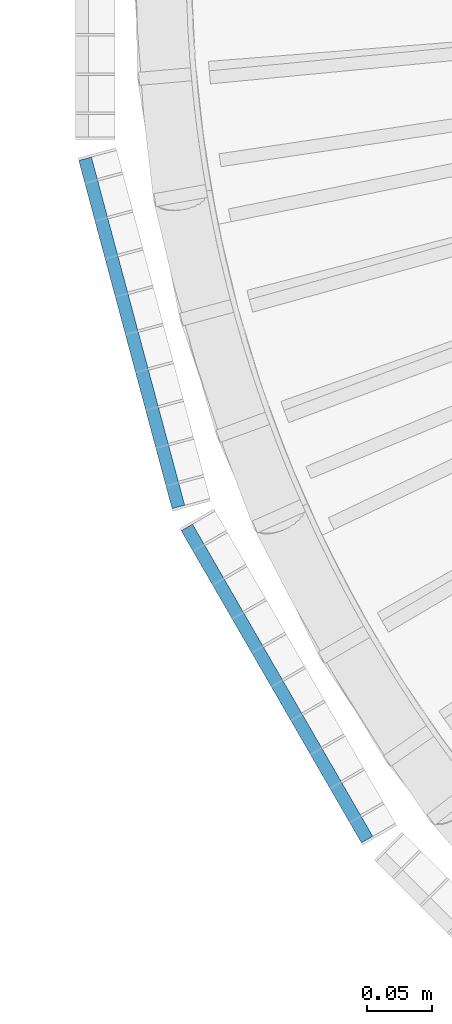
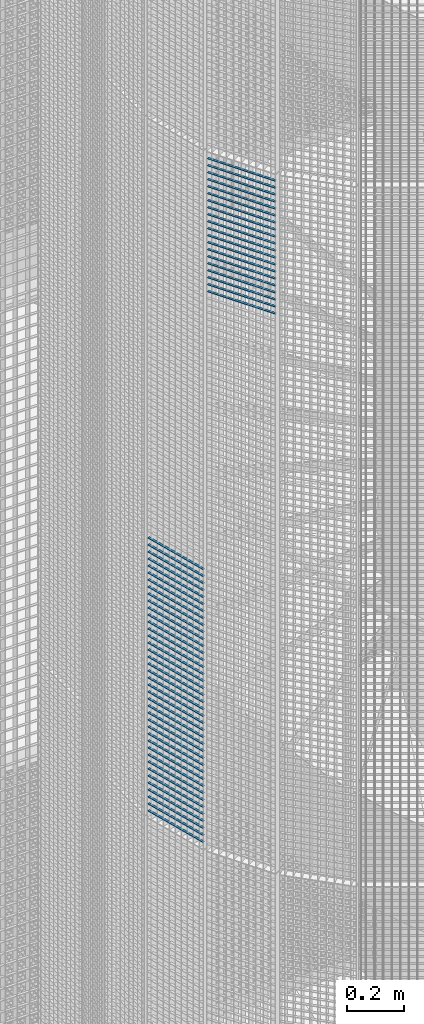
# One storey, part 333 of 1148: 60 beams, 2 elements without a shape of their own.
"""IFC2X3 building model written with IfcOpenShell, lengths in millimetres."""

from ifc_helpers import new_model, si_unit, frame, origin_with_axes, origin_2d_with_axis, place, context, subcontext, project, spatial, rectangle, extrude, material, type_object, element, aggregate, save


model = new_model("IFC2X3")

# Units and contexts
model_context = context("Model", 3, precision=1e-05, world=origin_with_axes())
body_context = subcontext(model_context, "Body", "Model", "MODEL_VIEW")
ifc_project = project(units=[si_unit("LENGTHUNIT", "METRE", prefix="MILLI"), si_unit("AREAUNIT", "SQUARE_METRE"), si_unit("VOLUMEUNIT", "CUBIC_METRE"), si_unit("MASSUNIT", "GRAM", prefix="KILO"), si_unit("TIMEUNIT", "SECOND"), si_unit("PLANEANGLEUNIT", "RADIAN"), si_unit("SOLIDANGLEUNIT", "STERADIAN"), si_unit("THERMODYNAMICTEMPERATUREUNIT", "DEGREE_CELSIUS"), si_unit("LUMINOUSINTENSITYUNIT", "LUMEN")], contexts=[model_context])

# Site, building, storey
site_placement = place(None, origin_with_axes())
site = spatial("IfcSite", under=ifc_project, at=site_placement, Name="Undefined", CompositionType="ELEMENT")
building_placement = place(site_placement, origin_with_axes())
building = spatial("IfcBuilding", under=site, at=building_placement, Name="Undefined", CompositionType="ELEMENT")
storey_placement = place(building_placement, origin_with_axes())
storey = spatial("IfcBuildingStorey", under=building, at=storey_placement, Name="Undefined", CompositionType="ELEMENT", Elevation=0.0)

# Assembly, beams
assembly_1_placement = place(storey_placement, origin_with_axes())
assembly_1 = element("IfcElementAssembly", 1, at=assembly_1_placement, inside=storey, Name="BORDURE", AssemblyPlace="NOTDEFINED", PredefinedType="NOTDEFINED")
ifc_material = material(Name="STEEL/S235JR")
beam_type = type_object("IfcBeamType", Name="PL2*10", PredefinedType="NOTDEFINED")
beam_1_placement = place(assembly_1_placement, frame((20560.1769047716, -421.483733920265, 13200.0), z_axis=(-0.965925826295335, -0.258819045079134, 0.0), x_axis=(-0.258819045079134, 0.965925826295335, 0.0)))
beam_1 = element("IfcBeam", 2, at=beam_1_placement, type_object=beam_type, material=ifc_material, Name="ENTRETOISE", context=body_context, shape_type="SweptSolid", body=[
    extrude(rectangle(XDim=2.0, YDim=10.0, at=origin_2d_with_axis()), frame((275.999999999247, 9.09494701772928e-13, 1.53210777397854e-14), z_axis=(-1.0, 0.0, 0.0), x_axis=(0.0, -1.0, 0.0)), (0.0, 0.0, 1.0), 276.0),
])
beam_2_placement = place(assembly_1_placement, frame((20560.1769047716, -421.483733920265, 13170.0), z_axis=(-0.965925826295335, -0.258819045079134, 0.0), x_axis=(-0.258819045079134, 0.965925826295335, 0.0)))
beam_2 = element("IfcBeam", 3, at=beam_2_placement, type_object=beam_type, material=ifc_material, Name="ENTRETOISE", context=body_context, shape_type="SweptSolid", body=[
    extrude(rectangle(XDim=2.0, YDim=10.0, at=origin_2d_with_axis()), frame((275.999999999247, 9.09494701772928e-13, 1.53210777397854e-14), z_axis=(-1.0, 0.0, 0.0), x_axis=(0.0, -1.0, 0.0)), (0.0, 0.0, 1.0), 276.0),
])
beam_3_placement = place(assembly_1_placement, frame((20560.1769047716, -421.483733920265, 13140.0), z_axis=(-0.965925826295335, -0.258819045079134, 0.0), x_axis=(-0.258819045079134, 0.965925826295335, 0.0)))
beam_3 = element("IfcBeam", 4, at=beam_3_placement, type_object=beam_type, material=ifc_material, Name="ENTRETOISE", context=body_context, shape_type="SweptSolid", body=[
    extrude(rectangle(XDim=2.0, YDim=10.0, at=origin_2d_with_axis()), frame((275.999999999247, 9.09494701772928e-13, 1.53210777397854e-14), z_axis=(-1.0, 0.0, 0.0), x_axis=(0.0, -1.0, 0.0)), (0.0, 0.0, 1.0), 276.0),
])
beam_4_placement = place(assembly_1_placement, frame((20560.1769047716, -421.483733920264, 12720.0), z_axis=(-0.965925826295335, -0.258819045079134, 0.0), x_axis=(-0.258819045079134, 0.965925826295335, 0.0)))
beam_4 = element("IfcBeam", 5, at=beam_4_placement, type_object=beam_type, material=ifc_material, Name="ENTRETOISE", context=body_context, shape_type="SweptSolid", body=[
    extrude(rectangle(XDim=2.0, YDim=10.0, at=origin_2d_with_axis()), frame((275.999999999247, 9.09494701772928e-13, 1.53210777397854e-14), z_axis=(-1.0, 0.0, 0.0), x_axis=(0.0, -1.0, 0.0)), (0.0, 0.0, 1.0), 276.0),
])
beam_5_placement = place(assembly_1_placement, frame((20560.1769047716, -421.483733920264, 12690.0), z_axis=(-0.965925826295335, -0.258819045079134, 0.0), x_axis=(-0.258819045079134, 0.965925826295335, 0.0)))
beam_5 = element("IfcBeam", 6, at=beam_5_placement, type_object=beam_type, material=ifc_material, Name="ENTRETOISE", context=body_context, shape_type="SweptSolid", body=[
    extrude(rectangle(XDim=2.0, YDim=10.0, at=origin_2d_with_axis()), frame((275.999999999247, 9.09494701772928e-13, 1.53210777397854e-14), z_axis=(-1.0, 0.0, 0.0), x_axis=(0.0, -1.0, 0.0)), (0.0, 0.0, 1.0), 276.0),
])
beam_6_placement = place(assembly_1_placement, frame((20560.1769047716, -421.483733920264, 12750.0), z_axis=(-0.965925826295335, -0.258819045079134, 0.0), x_axis=(-0.258819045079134, 0.965925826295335, 0.0)))
beam_6 = element("IfcBeam", 7, at=beam_6_placement, type_object=beam_type, material=ifc_material, Name="ENTRETOISE", context=body_context, shape_type="SweptSolid", body=[
    extrude(rectangle(XDim=2.0, YDim=10.0, at=origin_2d_with_axis()), frame((275.999999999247, 9.09494701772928e-13, 1.53210777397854e-14), z_axis=(-1.0, 0.0, 0.0), x_axis=(0.0, -1.0, 0.0)), (0.0, 0.0, 1.0), 276.0),
])
beam_7_placement = place(assembly_1_placement, frame((20560.1769047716, -421.483733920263, 12660.0), z_axis=(-0.965925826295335, -0.258819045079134, 0.0), x_axis=(-0.258819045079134, 0.965925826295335, 0.0)))
beam_7 = element("IfcBeam", 8, at=beam_7_placement, type_object=beam_type, material=ifc_material, Name="ENTRETOISE", context=body_context, shape_type="SweptSolid", body=[
    extrude(rectangle(XDim=2.0, YDim=10.0, at=origin_2d_with_axis()), frame((275.999999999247, 9.09494701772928e-13, 1.53210777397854e-14), z_axis=(-1.0, 0.0, 0.0), x_axis=(0.0, -1.0, 0.0)), (0.0, 0.0, 1.0), 276.0),
])
beam_8_placement = place(assembly_1_placement, frame((20560.1769047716, -421.483733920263, 12630.0), z_axis=(-0.965925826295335, -0.258819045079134, 0.0), x_axis=(-0.258819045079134, 0.965925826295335, 0.0)))
beam_8 = element("IfcBeam", 9, at=beam_8_placement, type_object=beam_type, material=ifc_material, Name="ENTRETOISE", context=body_context, shape_type="SweptSolid", body=[
    extrude(rectangle(XDim=2.0, YDim=10.0, at=origin_2d_with_axis()), frame((275.999999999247, 9.09494701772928e-13, 1.53210777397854e-14), z_axis=(-1.0, 0.0, 0.0), x_axis=(0.0, -1.0, 0.0)), (0.0, 0.0, 1.0), 276.0),
])
beam_9_placement = place(assembly_1_placement, frame((20560.1769047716, -421.483733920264, 12780.0), z_axis=(-0.965925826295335, -0.258819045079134, 0.0), x_axis=(-0.258819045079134, 0.965925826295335, 0.0)))
beam_9 = element("IfcBeam", 10, at=beam_9_placement, type_object=beam_type, material=ifc_material, Name="ENTRETOISE", context=body_context, shape_type="SweptSolid", body=[
    extrude(rectangle(XDim=2.0, YDim=10.0, at=origin_2d_with_axis()), frame((275.999999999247, 9.09494701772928e-13, 1.53210777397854e-14), z_axis=(-1.0, 0.0, 0.0), x_axis=(0.0, -1.0, 0.0)), (0.0, 0.0, 1.0), 276.0),
])
beam_10_placement = place(assembly_1_placement, frame((20560.1769047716, -421.483733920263, 12600.0), z_axis=(-0.965925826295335, -0.258819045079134, 0.0), x_axis=(-0.258819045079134, 0.965925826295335, 0.0)))
beam_10 = element("IfcBeam", 11, at=beam_10_placement, type_object=beam_type, material=ifc_material, Name="ENTRETOISE", context=body_context, shape_type="SweptSolid", body=[
    extrude(rectangle(XDim=2.0, YDim=10.0, at=origin_2d_with_axis()), frame((275.999999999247, 9.09494701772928e-13, 1.53210777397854e-14), z_axis=(-1.0, 0.0, 0.0), x_axis=(0.0, -1.0, 0.0)), (0.0, 0.0, 1.0), 276.0),
])
beam_11_placement = place(assembly_1_placement, frame((20560.1769047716, -421.483733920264, 12810.0), z_axis=(-0.965925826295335, -0.258819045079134, 0.0), x_axis=(-0.258819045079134, 0.965925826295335, 0.0)))
beam_11 = element("IfcBeam", 12, at=beam_11_placement, type_object=beam_type, material=ifc_material, Name="ENTRETOISE", context=body_context, shape_type="SweptSolid", body=[
    extrude(rectangle(XDim=2.0, YDim=10.0, at=origin_2d_with_axis()), frame((275.999999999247, 9.09494701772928e-13, 1.53210777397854e-14), z_axis=(-1.0, 0.0, 0.0), x_axis=(0.0, -1.0, 0.0)), (0.0, 0.0, 1.0), 276.0),
])
beam_12_placement = place(assembly_1_placement, frame((20560.1769047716, -421.483733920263, 12570.0), z_axis=(-0.965925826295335, -0.258819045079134, 0.0), x_axis=(-0.258819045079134, 0.965925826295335, 0.0)))
beam_12 = element("IfcBeam", 13, at=beam_12_placement, type_object=beam_type, material=ifc_material, Name="ENTRETOISE", context=body_context, shape_type="SweptSolid", body=[
    extrude(rectangle(XDim=2.0, YDim=10.0, at=origin_2d_with_axis()), frame((275.999999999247, 9.09494701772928e-13, 1.53210777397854e-14), z_axis=(-1.0, 0.0, 0.0), x_axis=(0.0, -1.0, 0.0)), (0.0, 0.0, 1.0), 276.0),
])
beam_13_placement = place(assembly_1_placement, frame((20560.1769047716, -421.483733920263, 12540.0), z_axis=(-0.965925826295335, -0.258819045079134, 0.0), x_axis=(-0.258819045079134, 0.965925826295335, 0.0)))
beam_13 = element("IfcBeam", 14, at=beam_13_placement, type_object=beam_type, material=ifc_material, Name="ENTRETOISE", context=body_context, shape_type="SweptSolid", body=[
    extrude(rectangle(XDim=2.0, YDim=10.0, at=origin_2d_with_axis()), frame((275.999999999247, 9.09494701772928e-13, 1.53210777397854e-14), z_axis=(-1.0, 0.0, 0.0), x_axis=(0.0, -1.0, 0.0)), (0.0, 0.0, 1.0), 276.0),
])
beam_14_placement = place(assembly_1_placement, frame((20560.1769047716, -421.483733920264, 12840.0), z_axis=(-0.965925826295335, -0.258819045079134, 0.0), x_axis=(-0.258819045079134, 0.965925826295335, 0.0)))
beam_14 = element("IfcBeam", 15, at=beam_14_placement, type_object=beam_type, material=ifc_material, Name="ENTRETOISE", context=body_context, shape_type="SweptSolid", body=[
    extrude(rectangle(XDim=2.0, YDim=10.0, at=origin_2d_with_axis()), frame((275.999999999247, 9.09494701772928e-13, 1.53210777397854e-14), z_axis=(-1.0, 0.0, 0.0), x_axis=(0.0, -1.0, 0.0)), (0.0, 0.0, 1.0), 276.0),
])
beam_15_placement = place(assembly_1_placement, frame((20560.1769047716, -421.483733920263, 12510.0), z_axis=(-0.965925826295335, -0.258819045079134, 0.0), x_axis=(-0.258819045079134, 0.965925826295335, 0.0)))
beam_15 = element("IfcBeam", 16, at=beam_15_placement, type_object=beam_type, material=ifc_material, Name="ENTRETOISE", context=body_context, shape_type="SweptSolid", body=[
    extrude(rectangle(XDim=2.0, YDim=10.0, at=origin_2d_with_axis()), frame((275.999999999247, 9.09494701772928e-13, 1.53210777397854e-14), z_axis=(-1.0, 0.0, 0.0), x_axis=(0.0, -1.0, 0.0)), (0.0, 0.0, 1.0), 276.0),
])
beam_16_placement = place(assembly_1_placement, frame((20560.1769047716, -421.483733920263, 12480.0), z_axis=(-0.965925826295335, -0.258819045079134, 0.0), x_axis=(-0.258819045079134, 0.965925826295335, 0.0)))
beam_16 = element("IfcBeam", 17, at=beam_16_placement, type_object=beam_type, material=ifc_material, Name="ENTRETOISE", context=body_context, shape_type="SweptSolid", body=[
    extrude(rectangle(XDim=2.0, YDim=10.0, at=origin_2d_with_axis()), frame((275.999999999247, 9.09494701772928e-13, 1.53210777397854e-14), z_axis=(-1.0, 0.0, 0.0), x_axis=(0.0, -1.0, 0.0)), (0.0, 0.0, 1.0), 276.0),
])
beam_17_placement = place(assembly_1_placement, frame((20560.1769047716, -421.483733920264, 12870.0), z_axis=(-0.965925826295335, -0.258819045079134, 0.0), x_axis=(-0.258819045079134, 0.965925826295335, 0.0)))
beam_17 = element("IfcBeam", 18, at=beam_17_placement, type_object=beam_type, material=ifc_material, Name="ENTRETOISE", context=body_context, shape_type="SweptSolid", body=[
    extrude(rectangle(XDim=2.0, YDim=10.0, at=origin_2d_with_axis()), frame((275.999999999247, 9.09494701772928e-13, 1.53210777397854e-14), z_axis=(-1.0, 0.0, 0.0), x_axis=(0.0, -1.0, 0.0)), (0.0, 0.0, 1.0), 276.0),
])
beam_18_placement = place(assembly_1_placement, frame((20560.1769047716, -421.483733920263, 12450.0), z_axis=(-0.965925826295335, -0.258819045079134, 0.0), x_axis=(-0.258819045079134, 0.965925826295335, 0.0)))
beam_18 = element("IfcBeam", 19, at=beam_18_placement, type_object=beam_type, material=ifc_material, Name="ENTRETOISE", context=body_context, shape_type="SweptSolid", body=[
    extrude(rectangle(XDim=2.0, YDim=10.0, at=origin_2d_with_axis()), frame((275.999999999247, 9.09494701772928e-13, 1.53210777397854e-14), z_axis=(-1.0, 0.0, 0.0), x_axis=(0.0, -1.0, 0.0)), (0.0, 0.0, 1.0), 276.0),
])
beam_19_placement = place(assembly_1_placement, frame((20560.1769047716, -421.483733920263, 12420.0), z_axis=(-0.965925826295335, -0.258819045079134, 0.0), x_axis=(-0.258819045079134, 0.965925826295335, 0.0)))
beam_19 = element("IfcBeam", 20, at=beam_19_placement, type_object=beam_type, material=ifc_material, Name="ENTRETOISE", context=body_context, shape_type="SweptSolid", body=[
    extrude(rectangle(XDim=2.0, YDim=10.0, at=origin_2d_with_axis()), frame((275.999999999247, 9.09494701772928e-13, 1.53210777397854e-14), z_axis=(-1.0, 0.0, 0.0), x_axis=(0.0, -1.0, 0.0)), (0.0, 0.0, 1.0), 276.0),
])
beam_20_placement = place(assembly_1_placement, frame((20560.1769047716, -421.483733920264, 12900.0), z_axis=(-0.965925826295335, -0.258819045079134, 0.0), x_axis=(-0.258819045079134, 0.965925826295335, 0.0)))
beam_20 = element("IfcBeam", 21, at=beam_20_placement, type_object=beam_type, material=ifc_material, Name="ENTRETOISE", context=body_context, shape_type="SweptSolid", body=[
    extrude(rectangle(XDim=2.0, YDim=10.0, at=origin_2d_with_axis()), frame((275.999999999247, 9.09494701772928e-13, 1.53210777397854e-14), z_axis=(-1.0, 0.0, 0.0), x_axis=(0.0, -1.0, 0.0)), (0.0, 0.0, 1.0), 276.0),
])
beam_21_placement = place(assembly_1_placement, frame((20560.1769047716, -421.483733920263, 12390.0), z_axis=(-0.965925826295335, -0.258819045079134, 0.0), x_axis=(-0.258819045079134, 0.965925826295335, 0.0)))
beam_21 = element("IfcBeam", 22, at=beam_21_placement, type_object=beam_type, material=ifc_material, Name="ENTRETOISE", context=body_context, shape_type="SweptSolid", body=[
    extrude(rectangle(XDim=2.0, YDim=10.0, at=origin_2d_with_axis()), frame((275.999999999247, 9.09494701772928e-13, 1.53210777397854e-14), z_axis=(-1.0, 0.0, 0.0), x_axis=(0.0, -1.0, 0.0)), (0.0, 0.0, 1.0), 276.0),
])
beam_22_placement = place(assembly_1_placement, frame((20560.1769047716, -421.483733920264, 12930.0), z_axis=(-0.965925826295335, -0.258819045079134, 0.0), x_axis=(-0.258819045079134, 0.965925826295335, 0.0)))
beam_22 = element("IfcBeam", 23, at=beam_22_placement, type_object=beam_type, material=ifc_material, Name="ENTRETOISE", context=body_context, shape_type="SweptSolid", body=[
    extrude(rectangle(XDim=2.0, YDim=10.0, at=origin_2d_with_axis()), frame((275.999999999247, 9.09494701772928e-13, 1.53210777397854e-14), z_axis=(-1.0, 0.0, 0.0), x_axis=(0.0, -1.0, 0.0)), (0.0, 0.0, 1.0), 276.0),
])
beam_23_placement = place(assembly_1_placement, frame((20560.1769047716, -421.483733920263, 12360.0), z_axis=(-0.965925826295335, -0.258819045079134, 0.0), x_axis=(-0.258819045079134, 0.965925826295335, 0.0)))
beam_23 = element("IfcBeam", 24, at=beam_23_placement, type_object=beam_type, material=ifc_material, Name="ENTRETOISE", context=body_context, shape_type="SweptSolid", body=[
    extrude(rectangle(XDim=2.0, YDim=10.0, at=origin_2d_with_axis()), frame((275.999999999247, 9.09494701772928e-13, 1.53210777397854e-14), z_axis=(-1.0, 0.0, 0.0), x_axis=(0.0, -1.0, 0.0)), (0.0, 0.0, 1.0), 276.0),
])
beam_24_placement = place(assembly_1_placement, frame((20560.1769047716, -421.483733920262, 12330.0), z_axis=(-0.965925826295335, -0.258819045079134, 0.0), x_axis=(-0.258819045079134, 0.965925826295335, 0.0)))
beam_24 = element("IfcBeam", 25, at=beam_24_placement, type_object=beam_type, material=ifc_material, Name="ENTRETOISE", context=body_context, shape_type="SweptSolid", body=[
    extrude(rectangle(XDim=2.0, YDim=10.0, at=origin_2d_with_axis()), frame((275.999999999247, 9.09494701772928e-13, 1.53210777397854e-14), z_axis=(-1.0, 0.0, 0.0), x_axis=(0.0, -1.0, 0.0)), (0.0, 0.0, 1.0), 276.0),
])
beam_25_placement = place(assembly_1_placement, frame((20560.1769047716, -421.483733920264, 12960.0), z_axis=(-0.965925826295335, -0.258819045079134, 0.0), x_axis=(-0.258819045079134, 0.965925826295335, 0.0)))
beam_25 = element("IfcBeam", 26, at=beam_25_placement, type_object=beam_type, material=ifc_material, Name="ENTRETOISE", context=body_context, shape_type="SweptSolid", body=[
    extrude(rectangle(XDim=2.0, YDim=10.0, at=origin_2d_with_axis()), frame((275.999999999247, 9.09494701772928e-13, 1.53210777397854e-14), z_axis=(-1.0, 0.0, 0.0), x_axis=(0.0, -1.0, 0.0)), (0.0, 0.0, 1.0), 276.0),
])
beam_26_placement = place(assembly_1_placement, frame((20560.1769047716, -421.483733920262, 12300.0), z_axis=(-0.965925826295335, -0.258819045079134, 0.0), x_axis=(-0.258819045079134, 0.965925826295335, 0.0)))
beam_26 = element("IfcBeam", 27, at=beam_26_placement, type_object=beam_type, material=ifc_material, Name="ENTRETOISE", context=body_context, shape_type="SweptSolid", body=[
    extrude(rectangle(XDim=2.0, YDim=10.0, at=origin_2d_with_axis()), frame((275.999999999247, 9.09494701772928e-13, 1.53210777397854e-14), z_axis=(-1.0, 0.0, 0.0), x_axis=(0.0, -1.0, 0.0)), (0.0, 0.0, 1.0), 276.0),
])
beam_27_placement = place(assembly_1_placement, frame((20560.1769047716, -421.483733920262, 12270.0), z_axis=(-0.965925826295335, -0.258819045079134, 0.0), x_axis=(-0.258819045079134, 0.965925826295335, 0.0)))
beam_27 = element("IfcBeam", 28, at=beam_27_placement, type_object=beam_type, material=ifc_material, Name="ENTRETOISE", context=body_context, shape_type="SweptSolid", body=[
    extrude(rectangle(XDim=2.0, YDim=10.0, at=origin_2d_with_axis()), frame((275.999999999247, 9.09494701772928e-13, 1.53210777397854e-14), z_axis=(-1.0, 0.0, 0.0), x_axis=(0.0, -1.0, 0.0)), (0.0, 0.0, 1.0), 276.0),
])
beam_28_placement = place(assembly_1_placement, frame((20560.1769047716, -421.483733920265, 12990.0), z_axis=(-0.965925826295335, -0.258819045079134, 0.0), x_axis=(-0.258819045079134, 0.965925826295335, 0.0)))
beam_28 = element("IfcBeam", 29, at=beam_28_placement, type_object=beam_type, material=ifc_material, Name="ENTRETOISE", context=body_context, shape_type="SweptSolid", body=[
    extrude(rectangle(XDim=2.0, YDim=10.0, at=origin_2d_with_axis()), frame((275.999999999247, 9.09494701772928e-13, 1.53210777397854e-14), z_axis=(-1.0, 0.0, 0.0), x_axis=(0.0, -1.0, 0.0)), (0.0, 0.0, 1.0), 276.0),
])
beam_29_placement = place(assembly_1_placement, frame((20560.1769047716, -421.483733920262, 12240.0), z_axis=(-0.965925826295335, -0.258819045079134, 0.0), x_axis=(-0.258819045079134, 0.965925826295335, 0.0)))
beam_29 = element("IfcBeam", 30, at=beam_29_placement, type_object=beam_type, material=ifc_material, Name="ENTRETOISE", context=body_context, shape_type="SweptSolid", body=[
    extrude(rectangle(XDim=2.0, YDim=10.0, at=origin_2d_with_axis()), frame((275.999999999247, 9.09494701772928e-13, 1.53210777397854e-14), z_axis=(-1.0, 0.0, 0.0), x_axis=(0.0, -1.0, 0.0)), (0.0, 0.0, 1.0), 276.0),
])
beam_30_placement = place(assembly_1_placement, frame((20560.1769047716, -421.483733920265, 13020.0), z_axis=(-0.965925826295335, -0.258819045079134, 0.0), x_axis=(-0.258819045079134, 0.965925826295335, 0.0)))
beam_30 = element("IfcBeam", 31, at=beam_30_placement, type_object=beam_type, material=ifc_material, Name="ENTRETOISE", context=body_context, shape_type="SweptSolid", body=[
    extrude(rectangle(XDim=2.0, YDim=10.0, at=origin_2d_with_axis()), frame((275.999999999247, 9.09494701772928e-13, 1.53210777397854e-14), z_axis=(-1.0, 0.0, 0.0), x_axis=(0.0, -1.0, 0.0)), (0.0, 0.0, 1.0), 276.0),
])
beam_31_placement = place(assembly_1_placement, frame((20560.1769047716, -421.483733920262, 12210.0), z_axis=(-0.965925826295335, -0.258819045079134, 0.0), x_axis=(-0.258819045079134, 0.965925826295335, 0.0)))
beam_31 = element("IfcBeam", 32, at=beam_31_placement, type_object=beam_type, material=ifc_material, Name="ENTRETOISE", context=body_context, shape_type="SweptSolid", body=[
    extrude(rectangle(XDim=2.0, YDim=10.0, at=origin_2d_with_axis()), frame((275.999999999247, 9.09494701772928e-13, 1.53210777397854e-14), z_axis=(-1.0, 0.0, 0.0), x_axis=(0.0, -1.0, 0.0)), (0.0, 0.0, 1.0), 276.0),
])
beam_32_placement = place(assembly_1_placement, frame((20560.1769047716, -421.483733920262, 12180.0), z_axis=(-0.965925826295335, -0.258819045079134, 0.0), x_axis=(-0.258819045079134, 0.965925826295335, 0.0)))
beam_32 = element("IfcBeam", 33, at=beam_32_placement, type_object=beam_type, material=ifc_material, Name="ENTRETOISE", context=body_context, shape_type="SweptSolid", body=[
    extrude(rectangle(XDim=2.0, YDim=10.0, at=origin_2d_with_axis()), frame((275.999999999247, 9.09494701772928e-13, 1.53210777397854e-14), z_axis=(-1.0, 0.0, 0.0), x_axis=(0.0, -1.0, 0.0)), (0.0, 0.0, 1.0), 276.0),
])
beam_33_placement = place(assembly_1_placement, frame((20560.1769047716, -421.483733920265, 13050.0), z_axis=(-0.965925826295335, -0.258819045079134, 0.0), x_axis=(-0.258819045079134, 0.965925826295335, 0.0)))
beam_33 = element("IfcBeam", 34, at=beam_33_placement, type_object=beam_type, material=ifc_material, Name="ENTRETOISE", context=body_context, shape_type="SweptSolid", body=[
    extrude(rectangle(XDim=2.0, YDim=10.0, at=origin_2d_with_axis()), frame((275.999999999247, 9.09494701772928e-13, 1.53210777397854e-14), z_axis=(-1.0, 0.0, 0.0), x_axis=(0.0, -1.0, 0.0)), (0.0, 0.0, 1.0), 276.0),
])
beam_34_placement = place(assembly_1_placement, frame((20560.1769047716, -421.483733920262, 12150.0), z_axis=(-0.965925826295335, -0.258819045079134, 0.0), x_axis=(-0.258819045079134, 0.965925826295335, 0.0)))
beam_34 = element("IfcBeam", 35, at=beam_34_placement, type_object=beam_type, material=ifc_material, Name="ENTRETOISE", context=body_context, shape_type="SweptSolid", body=[
    extrude(rectangle(XDim=2.0, YDim=10.0, at=origin_2d_with_axis()), frame((275.999999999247, 9.09494701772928e-13, 1.53210777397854e-14), z_axis=(-1.0, 0.0, 0.0), x_axis=(0.0, -1.0, 0.0)), (0.0, 0.0, 1.0), 276.0),
])
beam_35_placement = place(assembly_1_placement, frame((20560.1769047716, -421.483733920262, 12120.0), z_axis=(-0.965925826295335, -0.258819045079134, 0.0), x_axis=(-0.258819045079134, 0.965925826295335, 0.0)))
beam_35 = element("IfcBeam", 36, at=beam_35_placement, type_object=beam_type, material=ifc_material, Name="ENTRETOISE", context=body_context, shape_type="SweptSolid", body=[
    extrude(rectangle(XDim=2.0, YDim=10.0, at=origin_2d_with_axis()), frame((275.999999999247, 9.09494701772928e-13, 1.53210777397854e-14), z_axis=(-1.0, 0.0, 0.0), x_axis=(0.0, -1.0, 0.0)), (0.0, 0.0, 1.0), 276.0),
])
beam_36_placement = place(assembly_1_placement, frame((20560.1769047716, -421.483733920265, 13080.0), z_axis=(-0.965925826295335, -0.258819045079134, 0.0), x_axis=(-0.258819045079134, 0.965925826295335, 0.0)))
beam_36 = element("IfcBeam", 37, at=beam_36_placement, type_object=beam_type, material=ifc_material, Name="ENTRETOISE", context=body_context, shape_type="SweptSolid", body=[
    extrude(rectangle(XDim=2.0, YDim=10.0, at=origin_2d_with_axis()), frame((275.999999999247, 9.09494701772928e-13, 1.53210777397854e-14), z_axis=(-1.0, 0.0, 0.0), x_axis=(0.0, -1.0, 0.0)), (0.0, 0.0, 1.0), 276.0),
])
beam_37_placement = place(assembly_1_placement, frame((20560.1769047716, -421.483733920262, 12090.0), z_axis=(-0.965925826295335, -0.258819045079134, 0.0), x_axis=(-0.258819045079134, 0.965925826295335, 0.0)))
beam_37 = element("IfcBeam", 38, at=beam_37_placement, type_object=beam_type, material=ifc_material, Name="ENTRETOISE", context=body_context, shape_type="SweptSolid", body=[
    extrude(rectangle(XDim=2.0, YDim=10.0, at=origin_2d_with_axis()), frame((275.999999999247, 9.09494701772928e-13, 1.53210777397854e-14), z_axis=(-1.0, 0.0, 0.0), x_axis=(0.0, -1.0, 0.0)), (0.0, 0.0, 1.0), 276.0),
])
beam_38_placement = place(assembly_1_placement, frame((20560.1769047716, -421.483733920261, 12060.0), z_axis=(-0.965925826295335, -0.258819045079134, 0.0), x_axis=(-0.258819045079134, 0.965925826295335, 0.0)))
beam_38 = element("IfcBeam", 39, at=beam_38_placement, type_object=beam_type, material=ifc_material, Name="ENTRETOISE", context=body_context, shape_type="SweptSolid", body=[
    extrude(rectangle(XDim=2.0, YDim=10.0, at=origin_2d_with_axis()), frame((275.999999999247, 9.09494701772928e-13, 1.53210777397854e-14), z_axis=(-1.0, 0.0, 0.0), x_axis=(0.0, -1.0, 0.0)), (0.0, 0.0, 1.0), 276.0),
])
beam_39_placement = place(assembly_1_placement, frame((20560.1769047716, -421.483733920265, 13110.0), z_axis=(-0.965925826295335, -0.258819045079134, 0.0), x_axis=(-0.258819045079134, 0.965925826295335, 0.0)))
beam_39 = element("IfcBeam", 40, at=beam_39_placement, type_object=beam_type, material=ifc_material, Name="ENTRETOISE", context=body_context, shape_type="SweptSolid", body=[
    extrude(rectangle(XDim=2.0, YDim=10.0, at=origin_2d_with_axis()), frame((275.999999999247, 9.09494701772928e-13, 1.53210777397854e-14), z_axis=(-1.0, 0.0, 0.0), x_axis=(0.0, -1.0, 0.0)), (0.0, 0.0, 1.0), 276.0),
])
beam_40_placement = place(assembly_1_placement, frame((20560.1769047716, -421.48373392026, 12030.0), z_axis=(-0.965925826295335, -0.258819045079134, 0.0), x_axis=(-0.258819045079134, 0.965925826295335, 0.0)))
beam_40 = element("IfcBeam", 41, at=beam_40_placement, type_object=beam_type, material=ifc_material, Name="ENTRETOISE", context=body_context, shape_type="SweptSolid", body=[
    extrude(rectangle(XDim=2.0, YDim=10.0, at=origin_2d_with_axis()), frame((275.999999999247, 9.09494701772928e-13, 1.53210777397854e-14), z_axis=(-1.0, 0.0, 0.0), x_axis=(0.0, -1.0, 0.0)), (0.0, 0.0, 1.0), 276.0),
])
aggregate(assembly_1, [beam_1, beam_2, beam_3, beam_4, beam_5, beam_6, beam_7, beam_8, beam_9, beam_10, beam_11, beam_12, beam_13, beam_14, beam_15, beam_16, beam_17, beam_18, beam_19, beam_20, beam_21, beam_22, beam_23, beam_24, beam_25, beam_26, beam_27, beam_28, beam_29, beam_30, beam_31, beam_32, beam_33, beam_34, beam_35, beam_36, beam_37, beam_38, beam_39, beam_40])

assembly_2_placement = place(storey_placement, origin_with_axes())
assembly_2 = element("IfcElementAssembly", 42, at=assembly_2_placement, inside=storey, Name="BORDURE", AssemblyPlace="NOTDEFINED", PredefinedType="NOTDEFINED")
beam_41_placement = place(assembly_2_placement, frame((20704.6960350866, -676.248044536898, 14970.0), z_axis=(-0.866025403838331, -0.499999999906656, 0.0), x_axis=(-0.49999999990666, 0.866025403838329, 0.0)))
beam_41 = element("IfcBeam", 43, at=beam_41_placement, type_object=beam_type, material=ifc_material, Name="ENTRETOISE", context=body_context, shape_type="SweptSolid", body=[
    extrude(rectangle(XDim=2.0, YDim=10.0, at=origin_2d_with_axis()), frame((275.999999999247, 9.09494701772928e-13, 1.53210777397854e-14), z_axis=(-1.0, 0.0, 0.0), x_axis=(0.0, -1.0, 0.0)), (0.0, 0.0, 1.0), 276.0),
])
beam_42_placement = place(assembly_2_placement, frame((20704.6960350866, -676.248044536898, 14940.0), z_axis=(-0.866025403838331, -0.499999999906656, 0.0), x_axis=(-0.49999999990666, 0.866025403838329, 0.0)))
beam_42 = element("IfcBeam", 44, at=beam_42_placement, type_object=beam_type, material=ifc_material, Name="ENTRETOISE", context=body_context, shape_type="SweptSolid", body=[
    extrude(rectangle(XDim=2.0, YDim=10.0, at=origin_2d_with_axis()), frame((275.999999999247, 9.09494701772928e-13, 1.53210777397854e-14), z_axis=(-1.0, 0.0, 0.0), x_axis=(0.0, -1.0, 0.0)), (0.0, 0.0, 1.0), 276.0),
])
beam_43_placement = place(assembly_2_placement, frame((20704.6960350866, -676.248044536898, 14910.0), z_axis=(-0.866025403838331, -0.499999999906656, 0.0), x_axis=(-0.49999999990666, 0.866025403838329, 0.0)))
beam_43 = element("IfcBeam", 45, at=beam_43_placement, type_object=beam_type, material=ifc_material, Name="ENTRETOISE", context=body_context, shape_type="SweptSolid", body=[
    extrude(rectangle(XDim=2.0, YDim=10.0, at=origin_2d_with_axis()), frame((275.999999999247, 9.09494701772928e-13, 1.53210777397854e-14), z_axis=(-1.0, 0.0, 0.0), x_axis=(0.0, -1.0, 0.0)), (0.0, 0.0, 1.0), 276.0),
])
beam_44_placement = place(assembly_2_placement, frame((20704.6960350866, -676.248044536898, 14880.0), z_axis=(-0.866025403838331, -0.499999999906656, 0.0), x_axis=(-0.49999999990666, 0.866025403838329, 0.0)))
beam_44 = element("IfcBeam", 46, at=beam_44_placement, type_object=beam_type, material=ifc_material, Name="ENTRETOISE", context=body_context, shape_type="SweptSolid", body=[
    extrude(rectangle(XDim=2.0, YDim=10.0, at=origin_2d_with_axis()), frame((275.999999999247, 9.09494701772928e-13, 1.53210777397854e-14), z_axis=(-1.0, 0.0, 0.0), x_axis=(0.0, -1.0, 0.0)), (0.0, 0.0, 1.0), 276.0),
])
beam_45_placement = place(assembly_2_placement, frame((20704.6960350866, -676.248044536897, 14850.0), z_axis=(-0.866025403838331, -0.499999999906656, 0.0), x_axis=(-0.49999999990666, 0.866025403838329, 0.0)))
beam_45 = element("IfcBeam", 47, at=beam_45_placement, type_object=beam_type, material=ifc_material, Name="ENTRETOISE", context=body_context, shape_type="SweptSolid", body=[
    extrude(rectangle(XDim=2.0, YDim=10.0, at=origin_2d_with_axis()), frame((275.999999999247, 9.09494701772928e-13, 1.53210777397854e-14), z_axis=(-1.0, 0.0, 0.0), x_axis=(0.0, -1.0, 0.0)), (0.0, 0.0, 1.0), 276.0),
])
beam_46_placement = place(assembly_2_placement, frame((20704.6960350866, -676.248044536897, 14820.0), z_axis=(-0.866025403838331, -0.499999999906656, 0.0), x_axis=(-0.49999999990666, 0.866025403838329, 0.0)))
beam_46 = element("IfcBeam", 48, at=beam_46_placement, type_object=beam_type, material=ifc_material, Name="ENTRETOISE", context=body_context, shape_type="SweptSolid", body=[
    extrude(rectangle(XDim=2.0, YDim=10.0, at=origin_2d_with_axis()), frame((275.999999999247, 9.09494701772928e-13, 1.53210777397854e-14), z_axis=(-1.0, 0.0, 0.0), x_axis=(0.0, -1.0, 0.0)), (0.0, 0.0, 1.0), 276.0),
])
beam_47_placement = place(assembly_2_placement, frame((20704.6960350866, -676.248044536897, 14790.0), z_axis=(-0.866025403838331, -0.499999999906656, 0.0), x_axis=(-0.49999999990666, 0.866025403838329, 0.0)))
beam_47 = element("IfcBeam", 49, at=beam_47_placement, type_object=beam_type, material=ifc_material, Name="ENTRETOISE", context=body_context, shape_type="SweptSolid", body=[
    extrude(rectangle(XDim=2.0, YDim=10.0, at=origin_2d_with_axis()), frame((275.999999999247, 9.09494701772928e-13, 1.53210777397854e-14), z_axis=(-1.0, 0.0, 0.0), x_axis=(0.0, -1.0, 0.0)), (0.0, 0.0, 1.0), 276.0),
])
beam_48_placement = place(assembly_2_placement, frame((20704.6960350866, -676.248044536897, 14760.0), z_axis=(-0.866025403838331, -0.499999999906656, 0.0), x_axis=(-0.49999999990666, 0.866025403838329, 0.0)))
beam_48 = element("IfcBeam", 50, at=beam_48_placement, type_object=beam_type, material=ifc_material, Name="ENTRETOISE", context=body_context, shape_type="SweptSolid", body=[
    extrude(rectangle(XDim=2.0, YDim=10.0, at=origin_2d_with_axis()), frame((275.999999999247, 9.09494701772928e-13, 1.53210777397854e-14), z_axis=(-1.0, 0.0, 0.0), x_axis=(0.0, -1.0, 0.0)), (0.0, 0.0, 1.0), 276.0),
])
beam_49_placement = place(assembly_2_placement, frame((20704.6960350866, -676.248044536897, 14730.0), z_axis=(-0.866025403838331, -0.499999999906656, 0.0), x_axis=(-0.49999999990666, 0.866025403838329, 0.0)))
beam_49 = element("IfcBeam", 51, at=beam_49_placement, type_object=beam_type, material=ifc_material, Name="ENTRETOISE", context=body_context, shape_type="SweptSolid", body=[
    extrude(rectangle(XDim=2.0, YDim=10.0, at=origin_2d_with_axis()), frame((275.999999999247, 9.09494701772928e-13, 1.53210777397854e-14), z_axis=(-1.0, 0.0, 0.0), x_axis=(0.0, -1.0, 0.0)), (0.0, 0.0, 1.0), 276.0),
])
beam_50_placement = place(assembly_2_placement, frame((20704.6960350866, -676.248044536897, 14700.0), z_axis=(-0.866025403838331, -0.499999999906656, 0.0), x_axis=(-0.49999999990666, 0.866025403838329, 0.0)))
beam_50 = element("IfcBeam", 52, at=beam_50_placement, type_object=beam_type, material=ifc_material, Name="ENTRETOISE", context=body_context, shape_type="SweptSolid", body=[
    extrude(rectangle(XDim=2.0, YDim=10.0, at=origin_2d_with_axis()), frame((275.999999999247, 9.09494701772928e-13, 1.53210777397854e-14), z_axis=(-1.0, 0.0, 0.0), x_axis=(0.0, -1.0, 0.0)), (0.0, 0.0, 1.0), 276.0),
])
beam_51_placement = place(assembly_2_placement, frame((20704.6960350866, -676.248044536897, 14670.0), z_axis=(-0.866025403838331, -0.499999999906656, 0.0), x_axis=(-0.49999999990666, 0.866025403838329, 0.0)))
beam_51 = element("IfcBeam", 53, at=beam_51_placement, type_object=beam_type, material=ifc_material, Name="ENTRETOISE", context=body_context, shape_type="SweptSolid", body=[
    extrude(rectangle(XDim=2.0, YDim=10.0, at=origin_2d_with_axis()), frame((275.999999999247, 9.09494701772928e-13, 1.53210777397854e-14), z_axis=(-1.0, 0.0, 0.0), x_axis=(0.0, -1.0, 0.0)), (0.0, 0.0, 1.0), 276.0),
])
beam_52_placement = place(assembly_2_placement, frame((20704.6960350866, -676.248044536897, 14640.0), z_axis=(-0.866025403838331, -0.499999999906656, 0.0), x_axis=(-0.49999999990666, 0.866025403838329, 0.0)))
beam_52 = element("IfcBeam", 54, at=beam_52_placement, type_object=beam_type, material=ifc_material, Name="ENTRETOISE", context=body_context, shape_type="SweptSolid", body=[
    extrude(rectangle(XDim=2.0, YDim=10.0, at=origin_2d_with_axis()), frame((275.999999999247, 9.09494701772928e-13, 1.53210777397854e-14), z_axis=(-1.0, 0.0, 0.0), x_axis=(0.0, -1.0, 0.0)), (0.0, 0.0, 1.0), 276.0),
])
beam_53_placement = place(assembly_2_placement, frame((20704.6960350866, -676.248044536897, 14610.0), z_axis=(-0.866025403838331, -0.499999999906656, 0.0), x_axis=(-0.49999999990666, 0.866025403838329, 0.0)))
beam_53 = element("IfcBeam", 55, at=beam_53_placement, type_object=beam_type, material=ifc_material, Name="ENTRETOISE", context=body_context, shape_type="SweptSolid", body=[
    extrude(rectangle(XDim=2.0, YDim=10.0, at=origin_2d_with_axis()), frame((275.999999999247, 9.09494701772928e-13, 1.53210777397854e-14), z_axis=(-1.0, 0.0, 0.0), x_axis=(0.0, -1.0, 0.0)), (0.0, 0.0, 1.0), 276.0),
])
beam_54_placement = place(assembly_2_placement, frame((20704.6960350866, -676.248044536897, 14580.0), z_axis=(-0.866025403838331, -0.499999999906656, 0.0), x_axis=(-0.49999999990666, 0.866025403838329, 0.0)))
beam_54 = element("IfcBeam", 56, at=beam_54_placement, type_object=beam_type, material=ifc_material, Name="ENTRETOISE", context=body_context, shape_type="SweptSolid", body=[
    extrude(rectangle(XDim=2.0, YDim=10.0, at=origin_2d_with_axis()), frame((275.999999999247, 9.09494701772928e-13, 1.53210777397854e-14), z_axis=(-1.0, 0.0, 0.0), x_axis=(0.0, -1.0, 0.0)), (0.0, 0.0, 1.0), 276.0),
])
beam_55_placement = place(assembly_2_placement, frame((20704.6960350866, -676.248044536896, 14550.0), z_axis=(-0.866025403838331, -0.499999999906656, 0.0), x_axis=(-0.49999999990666, 0.866025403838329, 0.0)))
beam_55 = element("IfcBeam", 57, at=beam_55_placement, type_object=beam_type, material=ifc_material, Name="ENTRETOISE", context=body_context, shape_type="SweptSolid", body=[
    extrude(rectangle(XDim=2.0, YDim=10.0, at=origin_2d_with_axis()), frame((275.999999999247, 9.09494701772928e-13, 1.53210777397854e-14), z_axis=(-1.0, 0.0, 0.0), x_axis=(0.0, -1.0, 0.0)), (0.0, 0.0, 1.0), 276.0),
])
beam_56_placement = place(assembly_2_placement, frame((20704.6960350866, -676.248044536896, 14520.0), z_axis=(-0.866025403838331, -0.499999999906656, 0.0), x_axis=(-0.49999999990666, 0.866025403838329, 0.0)))
beam_56 = element("IfcBeam", 58, at=beam_56_placement, type_object=beam_type, material=ifc_material, Name="ENTRETOISE", context=body_context, shape_type="SweptSolid", body=[
    extrude(rectangle(XDim=2.0, YDim=10.0, at=origin_2d_with_axis()), frame((275.999999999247, 9.09494701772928e-13, 1.53210777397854e-14), z_axis=(-1.0, 0.0, 0.0), x_axis=(0.0, -1.0, 0.0)), (0.0, 0.0, 1.0), 276.0),
])
beam_57_placement = place(assembly_2_placement, frame((20704.6960350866, -676.248044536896, 14490.0), z_axis=(-0.866025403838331, -0.499999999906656, 0.0), x_axis=(-0.49999999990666, 0.866025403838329, 0.0)))
beam_57 = element("IfcBeam", 59, at=beam_57_placement, type_object=beam_type, material=ifc_material, Name="ENTRETOISE", context=body_context, shape_type="SweptSolid", body=[
    extrude(rectangle(XDim=2.0, YDim=10.0, at=origin_2d_with_axis()), frame((275.999999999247, 9.09494701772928e-13, 1.53210777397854e-14), z_axis=(-1.0, 0.0, 0.0), x_axis=(0.0, -1.0, 0.0)), (0.0, 0.0, 1.0), 276.0),
])
beam_58_placement = place(assembly_2_placement, frame((20704.6960350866, -676.248044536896, 14460.0), z_axis=(-0.866025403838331, -0.499999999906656, 0.0), x_axis=(-0.49999999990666, 0.866025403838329, 0.0)))
beam_58 = element("IfcBeam", 60, at=beam_58_placement, type_object=beam_type, material=ifc_material, Name="ENTRETOISE", context=body_context, shape_type="SweptSolid", body=[
    extrude(rectangle(XDim=2.0, YDim=10.0, at=origin_2d_with_axis()), frame((275.999999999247, 9.09494701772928e-13, 1.53210777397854e-14), z_axis=(-1.0, 0.0, 0.0), x_axis=(0.0, -1.0, 0.0)), (0.0, 0.0, 1.0), 276.0),
])
beam_59_placement = place(assembly_2_placement, frame((20704.6960350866, -676.248044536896, 14430.0), z_axis=(-0.866025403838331, -0.499999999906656, 0.0), x_axis=(-0.49999999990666, 0.866025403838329, 0.0)))
beam_59 = element("IfcBeam", 61, at=beam_59_placement, type_object=beam_type, material=ifc_material, Name="ENTRETOISE", context=body_context, shape_type="SweptSolid", body=[
    extrude(rectangle(XDim=2.0, YDim=10.0, at=origin_2d_with_axis()), frame((275.999999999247, 9.09494701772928e-13, 1.53210777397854e-14), z_axis=(-1.0, 0.0, 0.0), x_axis=(0.0, -1.0, 0.0)), (0.0, 0.0, 1.0), 276.0),
])
beam_60_placement = place(assembly_2_placement, frame((20704.6960350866, -676.248044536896, 14400.0), z_axis=(-0.866025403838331, -0.499999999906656, 0.0), x_axis=(-0.49999999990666, 0.866025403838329, 0.0)))
beam_60 = element("IfcBeam", 62, at=beam_60_placement, type_object=beam_type, material=ifc_material, Name="ENTRETOISE", context=body_context, shape_type="SweptSolid", body=[
    extrude(rectangle(XDim=2.0, YDim=10.0, at=origin_2d_with_axis()), frame((275.999999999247, 9.09494701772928e-13, 1.53210777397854e-14), z_axis=(-1.0, 0.0, 0.0), x_axis=(0.0, -1.0, 0.0)), (0.0, 0.0, 1.0), 276.0),
])
aggregate(assembly_2, [beam_41, beam_42, beam_43, beam_44, beam_45, beam_46, beam_47, beam_48, beam_49, beam_50, beam_51, beam_52, beam_53, beam_54, beam_55, beam_56, beam_57, beam_58, beam_59, beam_60])

save(model, "model.ifc")
